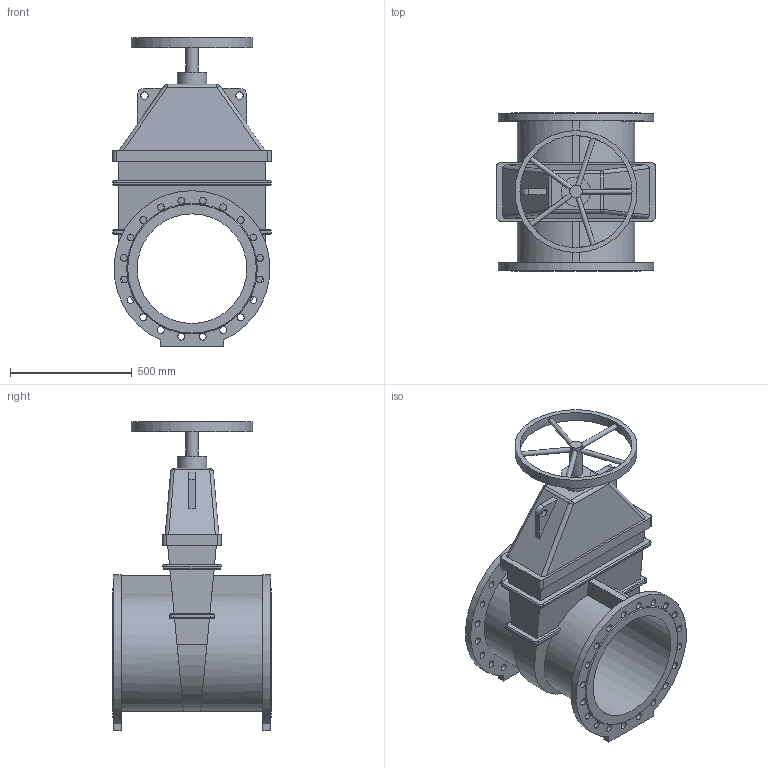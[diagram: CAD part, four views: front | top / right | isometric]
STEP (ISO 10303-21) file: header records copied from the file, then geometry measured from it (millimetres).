
FILE_DESCRIPTION(('STEP AP203'), '1');
FILE_NAME('Çàäâèæêà 47GV DN450 PN10_L650 ñ ìàõîâèêîì', '', ('UNSPECIFIED'), ('UNSPECIFIED'), 'ASCON STEP Converter 1.6', 'ASCON Math Kernel', '');
FILE_SCHEMA(('CONFIG_CONTROL_DESIGN'));
Length unit declared in the file: millimetre
Bounding box: 650 x 650 x 1269 mm (x, y, z)
Volume: 88630142.6 mm3; surface area: 4031871.6 mm2
Topology: 1 solids, 1 shells, 211 faces, 537 edges, 340 vertices
Faces by surface type: cylinder 107, plane 82, bspline 12, torus 8, cone 2
Full cylindrical faces by diameter (mm): 20 x5, 28 x40, 30 x2, 50 x1, 120 x1, 450 x1, 460 x1, 500 x1
Entity records: 10359 total; most frequent: CARTESIAN_POINT 3584, DIRECTION 1020, ORIENTED_EDGE 956, EDGE_CURVE 478, AXIS2_PLACEMENT_3D 394, EDGE_LOOP 378, VERTEX_POINT 340, FACE_BOUND 271
